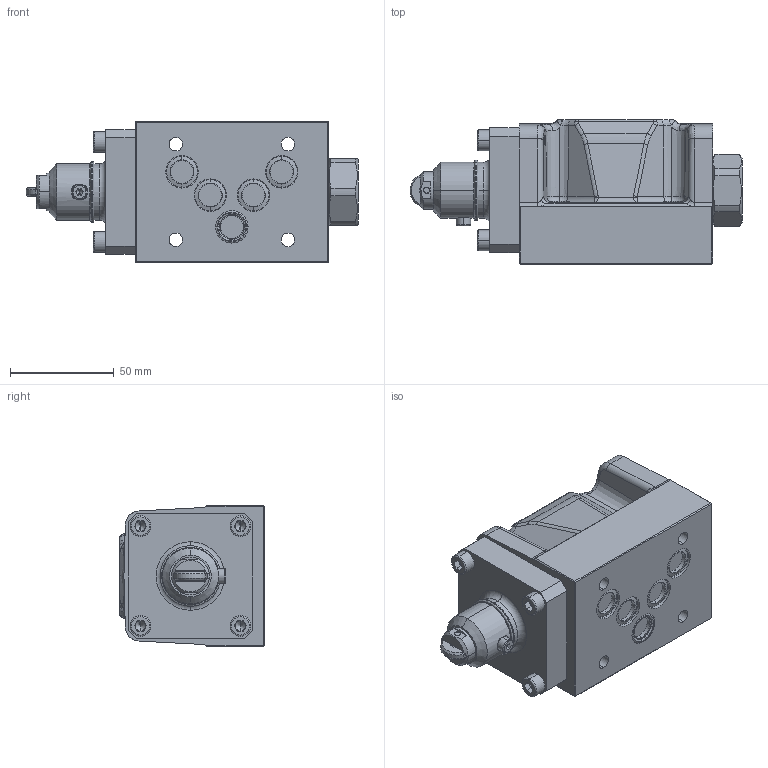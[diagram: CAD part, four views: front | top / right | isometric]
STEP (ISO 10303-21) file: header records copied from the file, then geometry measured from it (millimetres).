
FILE_DESCRIPTION (( 'STEP AP214' ), '1' );
FILE_NAME ('WDTFA10-4_2-Aside.STEP', '2019-06-26T10:44:10', ( '' ), ( '' ), 'SwSTEP 2.0', 'SolidWorks 2018', '' );
FILE_SCHEMA (( 'AUTOMOTIVE_DESIGN' ));
Length unit declared in the file: millimetre
Products named in the file (1): WDTFA10-4_2-Aside
Bounding box: 159.77 x 69.5 x 68 mm (x, y, z)
Volume: 433358.5 mm3; surface area: 58122.8 mm2
Topology: 9 solids, 11 shells, 741 faces, 1732 edges, 1036 vertices
Faces by surface type: plane 245, cylinder 232, bspline 134, cone 77, torus 53
Entity records: 33488 total; most frequent: CARTESIAN_POINT 9312, ORIENTED_EDGE 3420, DIRECTION 3183, EDGE_CURVE 1710, AXIS2_PLACEMENT_3D 1224, VERTEX_POINT 1036, EDGE_LOOP 822, UNCERTAINTY_MEASURE_WITH_UNIT 752
